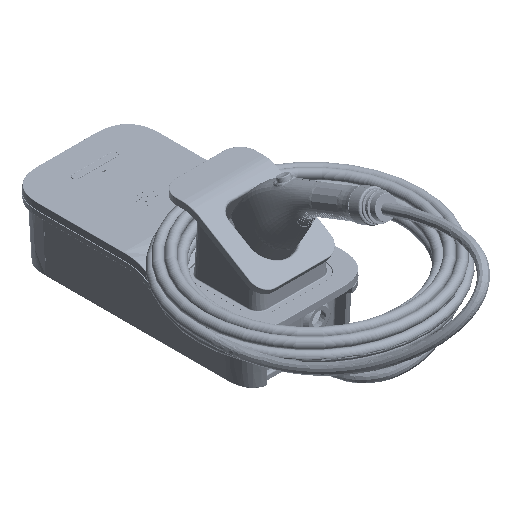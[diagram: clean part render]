
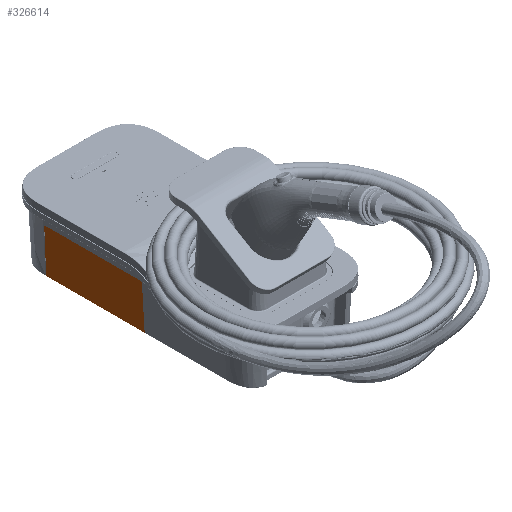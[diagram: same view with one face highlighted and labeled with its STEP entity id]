
A CAD part, isometric view. The second image highlights one B-rep face of the part: STEP entity #326614.
In plain terms, the highlighted planar face has unit normal (-0.999, 0, -0.052).
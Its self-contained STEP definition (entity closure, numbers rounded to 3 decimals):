
#3726 = ORIENTED_EDGE ( 'NONE', *, *, #38391, .F. ) ;
#7766 = VECTOR ( 'NONE', #403373, 1000. ) ;
#7791 = DIRECTION ( 'NONE',  ( -0.052, 0., 0.999 ) ) ;
#38391 = EDGE_CURVE ( 'NONE', #153420, #217216, #630113, .T. ) ;
#40483 = LINE ( 'NONE', #237694, #342339 ) ;
#41590 = CARTESIAN_POINT ( 'NONE',  ( -84.904, 320.526, 67.175 ) ) ;
#74305 = CARTESIAN_POINT ( 'NONE',  ( -85.06, 173.5, 70.144 ) ) ;
#87823 = FACE_OUTER_BOUND ( 'NONE', #488154, .T. ) ;
#90863 = AXIS2_PLACEMENT_3D ( 'NONE', #374926, #467191, #187221 ) ;
#96285 = EDGE_CURVE ( 'NONE', #406400, #146517, #452731, .T. ) ;
#104866 = ORIENTED_EDGE ( 'NONE', *, *, #96285, .F. ) ;
#130286 = EDGE_CURVE ( 'NONE', #217216, #406400, #399397, .T. ) ;
#133148 = CARTESIAN_POINT ( 'NONE',  ( -81.479, 0., 1.822 ) ) ;
#146517 = VERTEX_POINT ( 'NONE', #41590 ) ;
#153420 = VERTEX_POINT ( 'NONE', #548190 ) ;
#187221 = DIRECTION ( 'NONE',  ( -0.052, 0., 0.999 ) ) ;
#197305 = EDGE_CURVE ( 'NONE', #153420, #583241, #585575, .T. ) ;
#202614 = CARTESIAN_POINT ( 'NONE',  ( -85.06, 320.5, 70.144 ) ) ;
#217216 = VERTEX_POINT ( 'NONE', #248220 ) ;
#237694 = CARTESIAN_POINT ( 'NONE',  ( -85.06, 173.5, 70.144 ) ) ;
#248220 = CARTESIAN_POINT ( 'NONE',  ( -81.479, 172.902, 1.822 ) ) ;
#270790 = CARTESIAN_POINT ( 'NONE',  ( -85.06, 317.526, 70.144 ) ) ;
#291215 = VERTEX_POINT ( 'NONE', #270790 ) ;
#326614 = ADVANCED_FACE ( 'NONE', ( #87823 ), #643639, .T. ) ;
#333704 = DIRECTION ( 'NONE',  ( 0., 1., 0. ) ) ;
#342339 = VECTOR ( 'NONE', #537231, 1000. ) ;
#349044 = EDGE_CURVE ( 'NONE', #291215, #146517, #584768, .T. ) ;
#356346 = CARTESIAN_POINT ( 'NONE',  ( -84.903, 176.474, 67.149 ) ) ;
#360380 = CARTESIAN_POINT ( 'NONE',  ( -81.161, 0., -4.253 ) ) ;
#369670 = ORIENTED_EDGE ( 'NONE', *, *, #197305, .T. ) ;
#374926 = CARTESIAN_POINT ( 'NONE',  ( -84.903, 317.526, 67.149 ) ) ;
#375676 = AXIS2_PLACEMENT_3D ( 'NONE', #356346, #547298, #7791 ) ;
#399397 = LINE ( 'NONE', #133148, #575805 ) ;
#403373 = DIRECTION ( 'NONE',  ( -0.052, -0.009, 0.999 ) ) ;
#406400 = VERTEX_POINT ( 'NONE', #605695 ) ;
#406495 = AXIS2_PLACEMENT_3D ( 'NONE', #360380, #561025, #616883 ) ;
#416957 = ORIENTED_EDGE ( 'NONE', *, *, #349044, .T. ) ;
#443719 = ORIENTED_EDGE ( 'NONE', *, *, #616118, .F. ) ;
#452731 = LINE ( 'NONE', #202614, #7766 ) ;
#467191 = DIRECTION ( 'NONE',  ( -0.999, 0., -0.052 ) ) ;
#475514 = DIRECTION ( 'NONE',  ( 0.052, -0.009, -0.999 ) ) ;
#488154 = EDGE_LOOP ( 'NONE', ( #443719, #416957, #104866, #547544, #3726, #369670 ) ) ;
#537231 = DIRECTION ( 'NONE',  ( 0., -1., 0. ) ) ;
#547298 = DIRECTION ( 'NONE',  ( -0.999, 0., -0.052 ) ) ;
#547544 = ORIENTED_EDGE ( 'NONE', *, *, #130286, .F. ) ;
#548190 = CARTESIAN_POINT ( 'NONE',  ( -84.904, 173.474, 67.175 ) ) ;
#561025 = DIRECTION ( 'NONE',  ( -0.999, 0., -0.052 ) ) ;
#575805 = VECTOR ( 'NONE', #333704, 1000. ) ;
#583241 = VERTEX_POINT ( 'NONE', #623018 ) ;
#583915 = VECTOR ( 'NONE', #475514, 1000. ) ;
#584768 = CIRCLE ( 'NONE', #90863, 3. ) ;
#585575 = CIRCLE ( 'NONE', #375676, 3. ) ;
#605695 = CARTESIAN_POINT ( 'NONE',  ( -81.479, 321.098, 1.822 ) ) ;
#616118 = EDGE_CURVE ( 'NONE', #291215, #583241, #40483, .T. ) ;
#616883 = DIRECTION ( 'NONE',  ( -0.052, 0., 0.999 ) ) ;
#623018 = CARTESIAN_POINT ( 'NONE',  ( -85.06, 176.474, 70.144 ) ) ;
#630113 = LINE ( 'NONE', #74305, #583915 ) ;
#643639 = PLANE ( 'NONE',  #406495 ) ;
